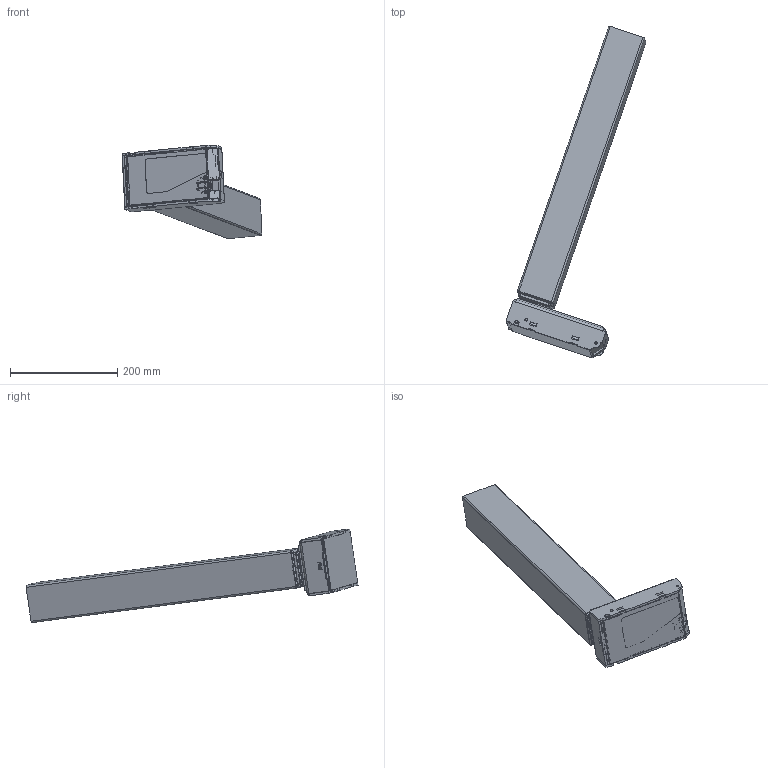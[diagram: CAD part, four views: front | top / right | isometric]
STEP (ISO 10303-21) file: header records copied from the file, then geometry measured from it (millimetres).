
FILE_DESCRIPTION (( 'STEP AP203' ), '1' );
FILE_NAME ('3D_TL4.STEP', '2025-03-07T10:58:45', ( '' ), ( '' ), 'SwSTEP 2.0', 'SolidWorks 2015', '' );
FILE_SCHEMA (( 'CONFIG_CONTROL_DESIGN' ));
Length unit declared in the file: inch
Products named in the file (1): 3D_TL4
Bounding box: 260.83 x 618.81 x 173.95 mm (x, y, z)
Volume: 977598.3 mm3; surface area: 893187.2 mm2
Topology: 9 solids, 9 shells, 2437 faces, 6318 edges, 3698 vertices
Faces by surface type: plane 944, cylinder 905, bspline 197, cone 156, sphere 121, torus 114
Entity records: 79823 total; most frequent: CARTESIAN_POINT 21929, ORIENTED_EDGE 12352, DIRECTION 11868, EDGE_CURVE 6176, AXIS2_PLACEMENT_3D 4119, VERTEX_POINT 3698, LINE 3630, VECTOR 3630
